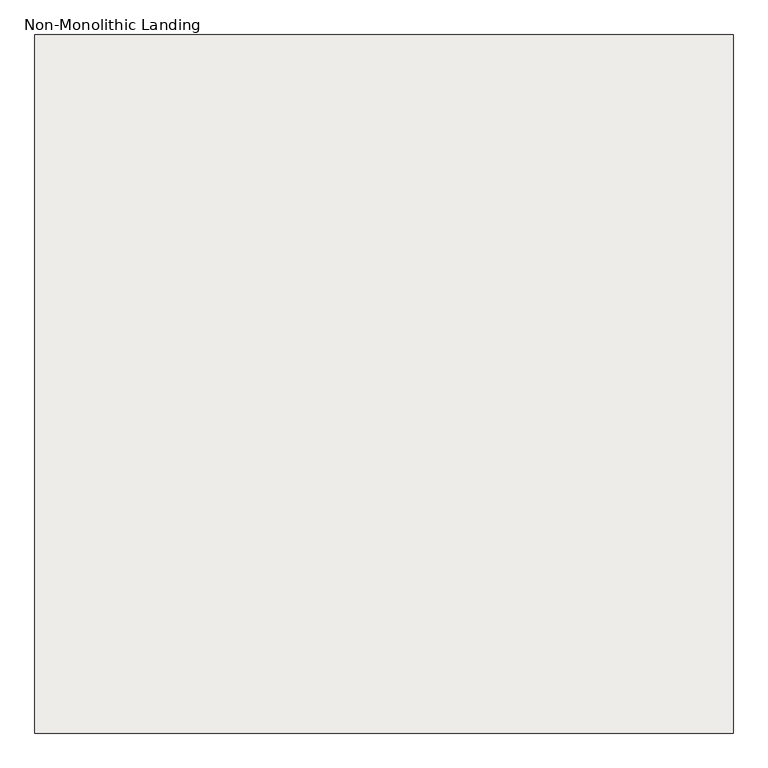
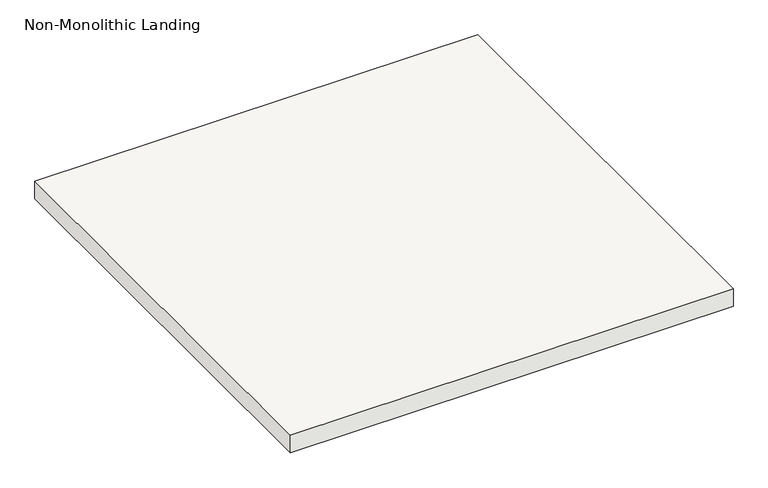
"""IFC4 building model written with IfcOpenShell, lengths in millimetres: slab geometry, Non-Monolithic Landing."""

import ifcopenshell
import ifcopenshell.guid

model = None  # the IFC model being written
_history = None  # IfcOwnerHistory: only IFC2X3 demands one
_inside = {}  # id of a spatial element -> (the spatial element, [elements in it])
_under = {}  # id of a project, library or spatial element -> (it, [spatial elements below it])
_declared = {}  # id of a project -> (the project, [libraries it declares])
_typed = {}  # id of a type object -> (the type object, [elements of that type])
_made_of = {}  # id of a material, layer set ... -> (it, [elements and type objects made of it])


def new_model(schema):
    """Start an empty IFC model of exactly this schema.

    Asked for "IFC4X3", IfcOpenShell would pick the latest addendum, in which some entities
    have other attributes; the version numbers below select the first issue.
    IFC2X3 requires an IfcOwnerHistory on every rooted entity: one is made here for all.
    """
    global model, _history
    if schema == "IFC4X3":
        model = ifcopenshell.file(schema_version=(4, 3, 0, 0))
    else:
        model = ifcopenshell.file(schema=schema)
    _inside.clear()
    _under.clear()
    _declared.clear()
    _typed.clear()
    _made_of.clear()
    _history = None
    if model.schema == "IFC2X3":
        org = make("IfcOrganization", Name="unknown")
        user = make(
            "IfcPersonAndOrganization",
            ThePerson=make("IfcPerson", FamilyName="unknown"),
            TheOrganization=org,
        )
        app = make(
            "IfcApplication",
            ApplicationDeveloper=org,
            Version="unknown",
            ApplicationFullName="unknown",
            ApplicationIdentifier="unknown",
        )
        _history = make(
            "IfcOwnerHistory",
            OwningUser=user,
            OwningApplication=app,
            ChangeAction="ADDED",
            CreationDate=0,
        )
    return model


def make(cls, **values):
    """One entity of the class cls with the attributes given. An attribute that is None is left unset."""
    return model.create_entity(
        cls, **{name: value for name, value in values.items() if value is not None}
    )


def rooted(cls, **values):
    """An entity with a GlobalId (a new one), such as an element, a storey or a relation."""
    return make(cls, GlobalId=ifcopenshell.guid.new(), OwnerHistory=_history, **values)


def si_unit(unit_type, name, prefix=None):
    """IfcSIUnit, for example si_unit("LENGTHUNIT", "METRE", prefix="MILLI")."""
    return make("IfcSIUnit", UnitType=unit_type, Prefix=prefix, Name=name)


def assignment(units):
    """IfcUnitAssignment: the units of a project."""
    return None if units is None else make("IfcUnitAssignment", Units=units)


def point(xyz):
    """IfcCartesianPoint."""
    return None if xyz is None else make("IfcCartesianPoint", Coordinates=xyz)


def direction(xyz):
    """IfcDirection."""
    return None if xyz is None else make("IfcDirection", DirectionRatios=xyz)


def frame(location, z_axis=None, x_axis=None):
    """IfcAxis2Placement3D, a coordinate frame: its origin and axes. An axis left out is left unset."""
    return make(
        "IfcAxis2Placement3D",
        Location=point(location),
        Axis=direction(z_axis),
        RefDirection=direction(x_axis),
    )


def origin():
    """The frame at (0, 0, 0) with its axes left unset."""
    return frame((0.0, 0.0, 0.0))


def place(relative_to, where):
    """IfcLocalPlacement: puts the frame where relative to a parent placement (None: the world)."""
    return make(
        "IfcLocalPlacement", PlacementRelTo=relative_to, RelativePlacement=where
    )


def context(
    kind, dimensions, precision=None, world=None, true_north=None, identifier=None
):
    """IfcGeometricRepresentationContext, for example the 3D "Model" context."""
    return make(
        "IfcGeometricRepresentationContext",
        ContextIdentifier=identifier,
        ContextType=kind,
        CoordinateSpaceDimension=dimensions,
        Precision=precision,
        WorldCoordinateSystem=world,
        TrueNorth=true_north,
    )


def project(units=None, contexts=None):
    """IfcProject with its units and contexts."""
    return rooted(
        "IfcProject",
        Name="project",
        RepresentationContexts=contexts,
        UnitsInContext=assignment(units),
    )


def spatial(cls, under=None, at=None, **own):
    """A site, building, storey or space (cls), placed at a placement, below another one or the project."""
    s = rooted(cls, ObjectPlacement=at, **own)
    if under is not None:
        _under.setdefault(under.id(), (under, []))[1].append(s)
    return s


def polyline(points):
    """IfcPolyline through the points."""
    return make("IfcPolyline", Points=[point(p) for p in points])


def outline(outer, holes=None, kind="AREA"):
    """IfcArbitraryClosedProfileDef: a profile drawn as a closed curve; with holes, ...WithVoids."""
    if holes is None:
        return make("IfcArbitraryClosedProfileDef", ProfileType=kind, OuterCurve=outer)
    return make(
        "IfcArbitraryProfileDefWithVoids",
        ProfileType=kind,
        OuterCurve=outer,
        InnerCurves=holes,
    )


def extrude(swept, where, along, depth):
    """IfcExtrudedAreaSolid: the profile swept, set in the frame where, extruded along a direction by depth."""
    return make(
        "IfcExtrudedAreaSolid",
        SweptArea=swept,
        Position=where,
        ExtrudedDirection=direction(along),
        Depth=depth,
    )


def shape(context_of_items, identifier, shape_type, items):
    """IfcShapeRepresentation: the items that make up one representation, for example the "Body"."""
    return make(
        "IfcShapeRepresentation",
        ContextOfItems=context_of_items,
        RepresentationIdentifier=identifier,
        RepresentationType=shape_type,
        Items=items,
    )


def source(mapping_origin, context_of_items, identifier, shape_type, items):
    """IfcRepresentationMap: a shape defined once, which mapped items show again and again."""
    return make(
        "IfcRepresentationMap",
        MappingOrigin=mapping_origin,
        MappedRepresentation=shape(context_of_items, identifier, shape_type, items),
    )


def transform(
    local_origin,
    x_axis=None,
    y_axis=None,
    z_axis=None,
    scale=None,
    scale2=None,
    scale3=None,
    uniform=True,
):
    """IfcCartesianTransformationOperator3D, or its non-uniform kind. x_axis, y_axis, z_axis: its Axis1, 2, 3."""
    if uniform:
        return make(
            "IfcCartesianTransformationOperator3D",
            Axis1=direction(x_axis),
            Axis2=direction(y_axis),
            LocalOrigin=point(local_origin),
            Scale=scale,
            Axis3=direction(z_axis),
        )
    return make(
        "IfcCartesianTransformationOperator3DnonUniform",
        Axis1=direction(x_axis),
        Axis2=direction(y_axis),
        LocalOrigin=point(local_origin),
        Scale=scale,
        Axis3=direction(z_axis),
        Scale2=scale2,
        Scale3=scale3,
    )


def mapped(mapping_source, mapping_target):
    """IfcMappedItem: shows the shape of a source again, moved by a transform."""
    return make(
        "IfcMappedItem", MappingSource=mapping_source, MappingTarget=mapping_target
    )


def made_of(thing, what):
    """Note that an element or type object is made of a material, layer set ...; save() writes the relation."""
    if what is not None:
        _made_of.setdefault(what.id(), (what, []))[1].append(thing)
    return thing


def element(
    cls,
    number,
    at=None,
    inside=None,
    cuts=None,
    type_object=None,
    material=None,
    context=None,
    identifier="Body",
    shape_type=None,
    held_by="IfcProductDefinitionShape",
    body=None,
    shapes=None,
    **own,
):
    """One element of the class cls, such as IfcWall. Its Tag is "e" and its number.

    at: its placement. inside: the storey or other place that contains it. cuts: it is an
    opening in that element (IfcRelVoidsElement). A single representation is given by context,
    identifier, shape_type and body (its items); several are given by shapes. held_by: the class
    of the entity that holds the representations. save() writes the other relations.
    """
    e = rooted(cls, Tag="e%d" % number, ObjectPlacement=at, **own)
    if body is not None:
        shapes = [shape(context, identifier, shape_type, body)]
    if shapes is not None:
        e.Representation = make(held_by, Representations=shapes)
    if inside is not None:
        _inside.setdefault(inside.id(), (inside, []))[1].append(e)
    if cuts is not None:
        rooted(
            "IfcRelVoidsElement", RelatingBuildingElement=cuts, RelatedOpeningElement=e
        )
    if type_object is not None:
        _typed.setdefault(type_object.id(), (type_object, []))[1].append(e)
    return made_of(e, material)


def aggregate(whole, parts):
    """IfcRelAggregates: a whole, such as a stair, and the parts it consists of."""
    return rooted("IfcRelAggregates", RelatingObject=whole, RelatedObjects=parts)


def save(model, path):
    """Write the relations noted so far, then the file.

    IfcRelAggregates (storeys below a building ...), IfcRelContainedInSpatialStructure (elements
    in a storey), IfcRelDefinesByType, IfcRelAssociatesMaterial and IfcRelDeclares: one each for
    every whole, place, type object, material and project.
    """
    for whole, parts in _under.values():
        aggregate(whole, parts)
    for where, things in _inside.values():
        rooted(
            "IfcRelContainedInSpatialStructure",
            RelatedElements=things,
            RelatingStructure=where,
        )
    for kind, things in _typed.values():
        rooted("IfcRelDefinesByType", RelatedObjects=things, RelatingType=kind)
    for what, things in _made_of.values():
        rooted("IfcRelAssociatesMaterial", RelatedObjects=things, RelatingMaterial=what)
    for by, libraries in _declared.values():
        rooted("IfcRelDeclares", RelatingContext=by, RelatedDefinitions=libraries)
    model.write(path)


def non_monolithic_landing_6755de2e(model_context):
    return source(origin(), model_context, "Body", "SweptSolid", [
        extrude(outline(polyline([(-105617.8719448, 36978.2777512), (-106817.8719448, 36978.2777512), (-106817.8719448, 38178.2777512), (-105617.8719448, 38178.2777512), (-105617.8719448, 36978.2777512)])), frame((0.0, 0.0, 46612.5), z_axis=(0.0, 0.0, 1.0), x_axis=(1.0, 0.0, 0.0)), (0.0, 0.0, 1.0), 50.0),
    ])


if __name__ == "__main__":
    model = new_model("IFC4")
    model_context = context("Model", 3, world=origin())
    ifc_project = project(units=[si_unit("LENGTHUNIT", "METRE", prefix="MILLI")], contexts=[model_context])
    site = spatial("IfcSite", under=ifc_project)
    building = spatial("IfcBuilding", under=site)
    placement = place(None, origin())
    non_monolithic_landing_shape = non_monolithic_landing_6755de2e(model_context)
    element("IfcSlab", 1, ObjectType="Non-Monolithic Landing", at=placement, inside=building, context=model_context, shape_type="MappedRepresentation", body=[
        mapped(non_monolithic_landing_shape, transform((0.0, 0.0, 0.0), x_axis=(1.0, 0.0, 0.0), y_axis=(0.0, 1.0, 0.0), z_axis=(0.0, 0.0, 1.0))),
    ])
    save(model, "model.ifc")
